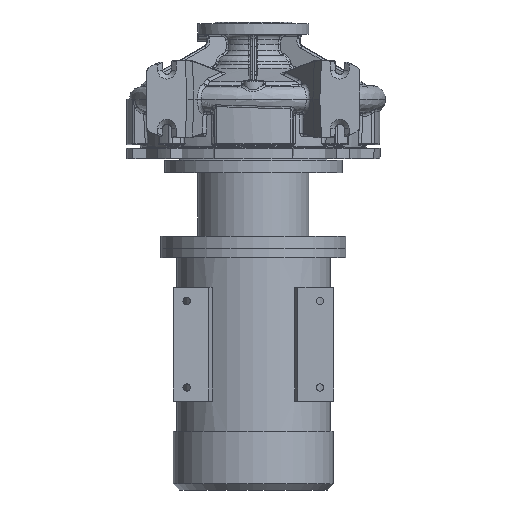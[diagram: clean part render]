
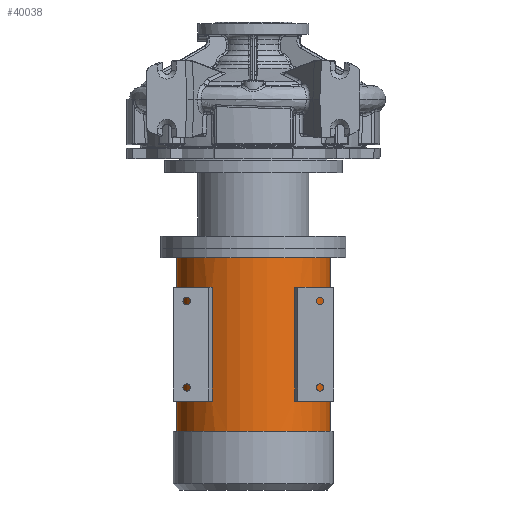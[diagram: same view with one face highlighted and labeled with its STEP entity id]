
A CAD part, front view. The second image highlights one B-rep face of the part: STEP entity #40038.
In plain terms, the highlighted cylindrical face has radius 124.5 mm (diameter 249 mm), a partial arc.
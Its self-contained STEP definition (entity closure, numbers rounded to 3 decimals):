
#293 = CARTESIAN_POINT ( 'NONE',  ( 0., 0., -488.8 ) ) ;
#1006 = VERTEX_POINT ( 'NONE', #83430 ) ;
#1106 = EDGE_CURVE ( 'NONE', #18326, #8109, #5256, .T. ) ;
#1562 = LINE ( 'NONE', #58216, #25102 ) ;
#1772 = VERTEX_POINT ( 'NONE', #57460 ) ;
#3619 = DIRECTION ( 'NONE',  ( 0., 0., -1. ) ) ;
#4177 = CIRCLE ( 'NONE', #10310, 124.5 ) ;
#5081 = CARTESIAN_POINT ( 'NONE',  ( -124.5, 0., -537.8 ) ) ;
#5256 = LINE ( 'NONE', #8981, #75877 ) ;
#5963 = ORIENTED_EDGE ( 'NONE', *, *, #43113, .F. ) ;
#6537 = ORIENTED_EDGE ( 'NONE', *, *, #92560, .T. ) ;
#8109 = VERTEX_POINT ( 'NONE', #56030 ) ;
#8148 = AXIS2_PLACEMENT_3D ( 'NONE', #27686, #56831, #69714 ) ;
#8981 = CARTESIAN_POINT ( 'NONE',  ( 75.873, -98.709, -632.8 ) ) ;
#9181 = CARTESIAN_POINT ( 'NONE',  ( 0., 0., -632.8 ) ) ;
#9526 = ORIENTED_EDGE ( 'NONE', *, *, #42506, .F. ) ;
#10310 = AXIS2_PLACEMENT_3D ( 'NONE', #56769, #71179, #85494 ) ;
#10985 = CIRCLE ( 'NONE', #38670, 124.5 ) ;
#12620 = VERTEX_POINT ( 'NONE', #5081 ) ;
#13146 = AXIS2_PLACEMENT_3D ( 'NONE', #37250, #44451, #30337 ) ;
#14080 = DIRECTION ( 'NONE',  ( 0., 0., 1. ) ) ;
#15565 = DIRECTION ( 'NONE',  ( 0., 0., -1. ) ) ;
#15731 = CIRCLE ( 'NONE', #29381, 124.5 ) ;
#16417 = DIRECTION ( 'NONE',  ( -1., 0., 0. ) ) ;
#18326 = VERTEX_POINT ( 'NONE', #36376 ) ;
#20337 = LINE ( 'NONE', #41145, #33868 ) ;
#20454 = DIRECTION ( 'NONE',  ( 0., 0., -1. ) ) ;
#21186 = ORIENTED_EDGE ( 'NONE', *, *, #48325, .T. ) ;
#21360 = CARTESIAN_POINT ( 'NONE',  ( 66.829, -105.044, -304.8 ) ) ;
#23641 = LINE ( 'NONE', #54140, #59507 ) ;
#24654 = ORIENTED_EDGE ( 'NONE', *, *, #88423, .T. ) ;
#25102 = VECTOR ( 'NONE', #36952, 1000. ) ;
#25377 = ORIENTED_EDGE ( 'NONE', *, *, #57872, .F. ) ;
#26168 = CYLINDRICAL_SURFACE ( 'NONE', #88397, 124.5 ) ;
#27054 = VECTOR ( 'NONE', #20454, 1000. ) ;
#27686 = CARTESIAN_POINT ( 'NONE',  ( 0., 0., -537.8 ) ) ;
#29027 = DIRECTION ( 'NONE',  ( -1., 0., 0. ) ) ;
#29315 = CARTESIAN_POINT ( 'NONE',  ( -75.873, -98.709, -304.8 ) ) ;
#29381 = AXIS2_PLACEMENT_3D ( 'NONE', #293, #14080, #36321 ) ;
#30045 = ORIENTED_EDGE ( 'NONE', *, *, #32096, .T. ) ;
#30337 = DIRECTION ( 'NONE',  ( -1., 0., 0. ) ) ;
#30513 = ORIENTED_EDGE ( 'NONE', *, *, #81656, .F. ) ;
#31150 = CARTESIAN_POINT ( 'NONE',  ( -66.829, -105.044, -632.8 ) ) ;
#31509 = CARTESIAN_POINT ( 'NONE',  ( -124.5, 0., -256.8 ) ) ;
#31765 = FACE_BOUND ( 'NONE', #53336, .T. ) ;
#32096 = EDGE_CURVE ( 'NONE', #36860, #84518, #4177, .T. ) ;
#32218 = LINE ( 'NONE', #31150, #69143 ) ;
#33868 = VECTOR ( 'NONE', #40845, 1000. ) ;
#34420 = AXIS2_PLACEMENT_3D ( 'NONE', #42570, #71935, #29027 ) ;
#35300 = CIRCLE ( 'NONE', #8148, 124.5 ) ;
#36252 = FACE_BOUND ( 'NONE', #61785, .T. ) ;
#36321 = DIRECTION ( 'NONE',  ( -1., 0., 0. ) ) ;
#36376 = CARTESIAN_POINT ( 'NONE',  ( 75.873, -98.709, -304.8 ) ) ;
#36860 = VERTEX_POINT ( 'NONE', #50131 ) ;
#36952 = DIRECTION ( 'NONE',  ( 0., 0., -1. ) ) ;
#37250 = CARTESIAN_POINT ( 'NONE',  ( 0., 0., -256.8 ) ) ;
#37864 = CIRCLE ( 'NONE', #34420, 124.5 ) ;
#38144 = CARTESIAN_POINT ( 'NONE',  ( 124.5, 0., -537.8 ) ) ;
#38645 = DIRECTION ( 'NONE',  ( 0., 0., -1. ) ) ;
#38670 = AXIS2_PLACEMENT_3D ( 'NONE', #66253, #3619, #38710 ) ;
#38710 = DIRECTION ( 'NONE',  ( 1., 0., 0. ) ) ;
#40038 = ADVANCED_FACE ( 'NONE', ( #69854, #31765, #36252 ), #26168, .T. ) ;
#40845 = DIRECTION ( 'NONE',  ( 0., 0., 1. ) ) ;
#41145 = CARTESIAN_POINT ( 'NONE',  ( 66.829, -105.044, -632.8 ) ) ;
#42506 = EDGE_CURVE ( 'NONE', #90073, #84518, #67409, .T. ) ;
#42570 = CARTESIAN_POINT ( 'NONE',  ( 0., 0., -304.8 ) ) ;
#43113 = EDGE_CURVE ( 'NONE', #1006, #64719, #23641, .T. ) ;
#44451 = DIRECTION ( 'NONE',  ( 0., 0., -1. ) ) ;
#48325 = EDGE_CURVE ( 'NONE', #67431, #18326, #37864, .T. ) ;
#50131 = CARTESIAN_POINT ( 'NONE',  ( -66.829, -105.044, -488.8 ) ) ;
#50353 = EDGE_CURVE ( 'NONE', #1772, #8109, #15731, .T. ) ;
#52742 = DIRECTION ( 'NONE',  ( 0., 0., 1. ) ) ;
#53336 = EDGE_LOOP ( 'NONE', ( #79137, #6537, #21186, #54767 ) ) ;
#54140 = CARTESIAN_POINT ( 'NONE',  ( 124.5, 0., -632.8 ) ) ;
#54767 = ORIENTED_EDGE ( 'NONE', *, *, #1106, .T. ) ;
#55425 = EDGE_CURVE ( 'NONE', #64719, #12620, #35300, .T. ) ;
#56030 = CARTESIAN_POINT ( 'NONE',  ( 75.873, -98.709, -488.8 ) ) ;
#56769 = CARTESIAN_POINT ( 'NONE',  ( 0., 0., -488.8 ) ) ;
#56831 = DIRECTION ( 'NONE',  ( 0., 0., -1. ) ) ;
#57460 = CARTESIAN_POINT ( 'NONE',  ( 66.829, -105.044, -488.8 ) ) ;
#57872 = EDGE_CURVE ( 'NONE', #36860, #74444, #32218, .T. ) ;
#58216 = CARTESIAN_POINT ( 'NONE',  ( -124.5, 0., -632.8 ) ) ;
#59507 = VECTOR ( 'NONE', #75747, 1000. ) ;
#61785 = EDGE_LOOP ( 'NONE', ( #25377, #30045, #9526, #30513 ) ) ;
#64719 = VERTEX_POINT ( 'NONE', #38144 ) ;
#66253 = CARTESIAN_POINT ( 'NONE',  ( 0., 0., -304.8 ) ) ;
#67409 = LINE ( 'NONE', #76521, #27054 ) ;
#67431 = VERTEX_POINT ( 'NONE', #21360 ) ;
#69143 = VECTOR ( 'NONE', #52742, 1000. ) ;
#69714 = DIRECTION ( 'NONE',  ( -1., 0., 0. ) ) ;
#69854 = FACE_OUTER_BOUND ( 'NONE', #79989, .T. ) ;
#71179 = DIRECTION ( 'NONE',  ( 0., 0., -1. ) ) ;
#71935 = DIRECTION ( 'NONE',  ( 0., 0., 1. ) ) ;
#73402 = CARTESIAN_POINT ( 'NONE',  ( -66.829, -105.044, -304.8 ) ) ;
#74444 = VERTEX_POINT ( 'NONE', #73402 ) ;
#75447 = EDGE_CURVE ( 'NONE', #1006, #81647, #85809, .T. ) ;
#75517 = ORIENTED_EDGE ( 'NONE', *, *, #75447, .T. ) ;
#75747 = DIRECTION ( 'NONE',  ( 0., 0., -1. ) ) ;
#75877 = VECTOR ( 'NONE', #15565, 1000. ) ;
#76521 = CARTESIAN_POINT ( 'NONE',  ( -75.873, -98.709, -632.8 ) ) ;
#79137 = ORIENTED_EDGE ( 'NONE', *, *, #50353, .F. ) ;
#79989 = EDGE_LOOP ( 'NONE', ( #5963, #75517, #24654, #87162 ) ) ;
#81152 = CARTESIAN_POINT ( 'NONE',  ( -75.873, -98.709, -488.8 ) ) ;
#81647 = VERTEX_POINT ( 'NONE', #31509 ) ;
#81656 = EDGE_CURVE ( 'NONE', #74444, #90073, #10985, .T. ) ;
#83430 = CARTESIAN_POINT ( 'NONE',  ( 124.5, 0., -256.8 ) ) ;
#84518 = VERTEX_POINT ( 'NONE', #81152 ) ;
#85494 = DIRECTION ( 'NONE',  ( 1., 0., 0. ) ) ;
#85809 = CIRCLE ( 'NONE', #13146, 124.5 ) ;
#87162 = ORIENTED_EDGE ( 'NONE', *, *, #55425, .F. ) ;
#88397 = AXIS2_PLACEMENT_3D ( 'NONE', #9181, #38645, #16417 ) ;
#88423 = EDGE_CURVE ( 'NONE', #81647, #12620, #1562, .T. ) ;
#90073 = VERTEX_POINT ( 'NONE', #29315 ) ;
#92560 = EDGE_CURVE ( 'NONE', #1772, #67431, #20337, .T. ) ;
